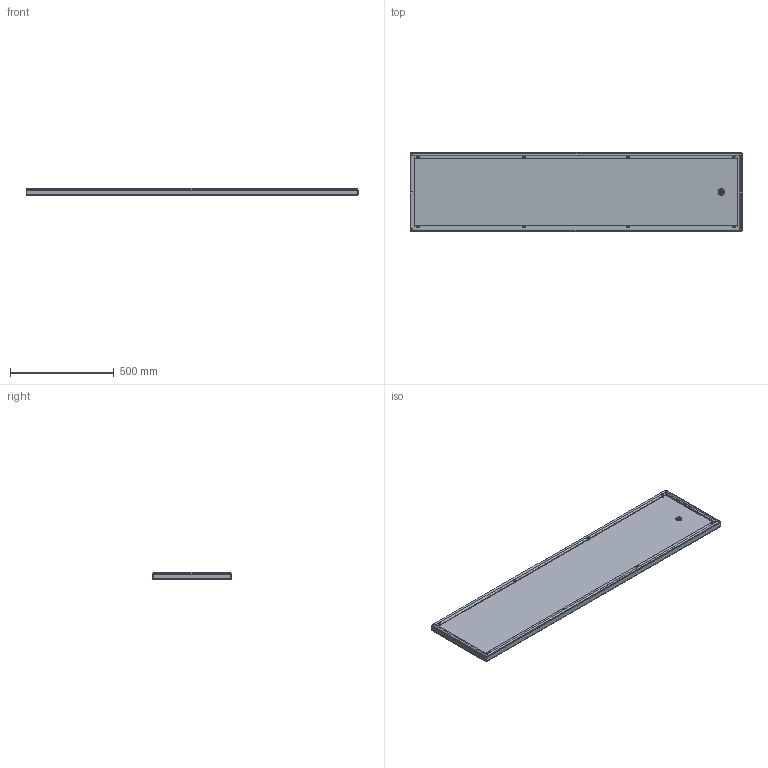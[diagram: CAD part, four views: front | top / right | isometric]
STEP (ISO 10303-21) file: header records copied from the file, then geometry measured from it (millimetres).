
FILE_DESCRIPTION (( 'STEP AP203' ), '1' );
FILE_NAME ('P 160.40-N Ïàíåëü êîíöåâàÿ íèæíåé ÷àñòè.STEP', '2025-10-02T13:32:18', ( '' ), ( '' ), 'SwSTEP 2.0', 'SolidWorks 2019', '' );
FILE_SCHEMA (( 'CONFIG_CONTROL_DESIGN' ));
Length unit declared in the file: millimetre
Products named in the file (4): Ãàéêà-çàêë¸ïêà Ì6; P 160.40-N Ïàíåëü êîíöåâàÿ íèæíåé ÷àñòè; Øïèëüêà çàçåìëåíèÿ Ì6õ17,5_˜¯¨«ìª  § §¥¬«¥­¨ï Œ6å17,5; P Y.40(50)-N(D).01 Ïàíåëü êîíöåâàÿ íèæíåé ÷àñòè_P 160.40-N.01
Assembly tree (10 placements, depth 2):
  P 160.40-N Ïàíåëü êîíöåâàÿ íèæíåé ÷àñòè
    P Y.40(50)-N(D).01 Ïàíåëü êîíöåâàÿ íèæíåé ÷àñòè_P 160.40-N.01
    Ãàéêà-çàêë¸ïêà Ì6  x8
    Øïèëüêà çàçåìëåíèÿ Ì6õ17,5_˜¯¨«ìª  § §¥¬«¥­¨ï Œ6å17,5
Bounding box: 1600 x 377 x 34 mm (x, y, z)
Volume: 1275563.2 mm3; surface area: 1633708.8 mm2
Topology: 10 solids, 10 shells, 608 faces, 1460 edges, 896 vertices
Faces by surface type: cylinder 316, plane 138, torus 88, bspline 60, cone 6
Entity records: 12456 total; most frequent: CARTESIAN_POINT 6444, ORIENTED_EDGE 1232, DIRECTION 991, EDGE_CURVE 616, VERTEX_POINT 371, AXIS2_PLACEMENT_3D 363, EDGE_LOOP 277, LINE 265
